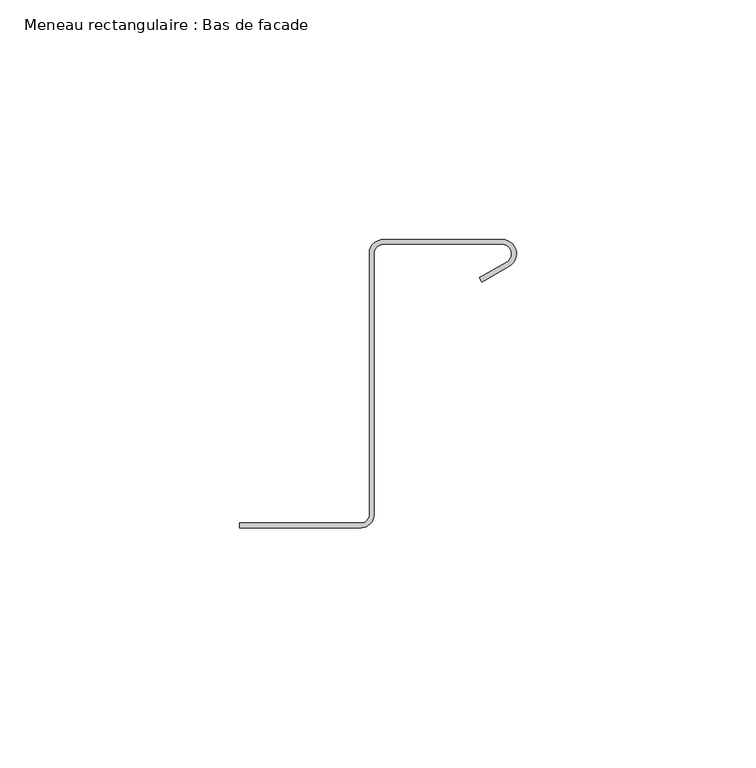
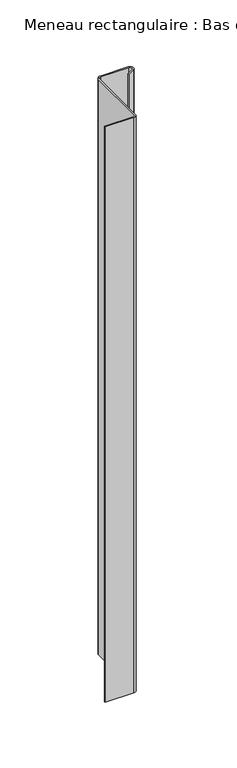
"""IFC4 building model written with IfcOpenShell, lengths in millimetres: member geometry, Meneau rectangulaire : Bas de facade."""

from ifc_helpers import new_model, si_unit, point, frame, frame_2d, origin, place, context, project, spatial, polyline, circle_curve, trimmed, segment, composite_curve, outline, extrude, source, transform, mapped, element, save


def meneau_rectangulaire_bas_de_facade_e63c7c5e(model_context):
    return source(origin(), model_context, "Body", "SweptSolid", [
        extrude(outline(composite_curve([segment(polyline([(-32.4584179, -2.9588923), (-57.8548383, -2.9588923), (-57.8548383, -1.9588923), (-32.4584179, -1.9588923)]), True, "CONTINUOUS"), segment(trimmed(circle_curve(frame_2d((-32.4584179, -0.2088923)), 1.75), [point((-32.4584179, -1.9588923))], [point((-30.7239521, -0.4415475))], True, "CARTESIAN"), True, "CONTINUOUS"), segment(polyline([(-30.7239521, -0.4415475), (-30.7239521, 54.522067)]), True, "CONTINUOUS"), segment(trimmed(circle_curve(frame_2d((-27.735368, 54.2605998)), 3.0), [point((-30.7239521, 54.522067))], [point((-27.735368, 57.2605998))], False, "CARTESIAN"), True, "CONTINUOUS"), segment(polyline([(-27.735368, 57.2605998), (-3.0, 57.2605998)]), True, "CONTINUOUS"), segment(trimmed(circle_curve(frame_2d((-3.0, 54.2605998)), 3.0), [point((-3.0, 57.2605998))], [point((-1.5, 51.6625235))], False, "CARTESIAN"), True, "CONTINUOUS"), segment(polyline([(-1.5, 51.6625235), (-7.1638061, 48.3925235), (-7.6638061, 49.258549), (-2.0, 52.528549)]), True, "CONTINUOUS"), segment(trimmed(circle_curve(frame_2d((-3.0, 54.2605998)), 2.0), [point((-2.0, 52.528549))], [point((-3.0, 56.2605998))], True, "CARTESIAN"), True, "CONTINUOUS"), segment(polyline([(-3.0, 56.2605998), (-27.735368, 56.2605998)]), True, "CONTINUOUS"), segment(trimmed(circle_curve(frame_2d((-27.735368, 54.2605998)), 2.0), [point((-27.735368, 56.2605998))], [point((-29.7143802, 54.5495817))], True, "CARTESIAN"), True, "CONTINUOUS"), segment(polyline([(-29.7143802, 54.5495817), (-29.7143802, -0.3898824)]), True, "CONTINUOUS"), segment(trimmed(circle_curve(frame_2d((-32.4584179, -0.2088923)), 2.75), [point((-29.7143802, -0.3898824))], [point((-32.4584179, -2.9588923))], False, "CARTESIAN"), True, "CONTINUOUS")], self_intersect=False)), frame((0.0, 0.0, -534.0), z_axis=(0.0, 0.0, 1.0), x_axis=(1.0, 0.0, 0.0)), (0.0, 0.0, 1.0), 534.0),
    ])


if __name__ == "__main__":
    model = new_model("IFC4")
    model_context = context("Model", 3, world=origin())
    ifc_project = project(units=[si_unit("LENGTHUNIT", "METRE", prefix="MILLI")], contexts=[model_context])
    site = spatial("IfcSite", under=ifc_project)
    building = spatial("IfcBuilding", under=site)
    placement = place(None, origin())
    meneau_rectangulaire_bas_de_facade_shape = meneau_rectangulaire_bas_de_facade_e63c7c5e(model_context)
    element("IfcMember", 1, ObjectType="Meneau rectangulaire : Bas de facade", at=placement, inside=building, context=model_context, shape_type="MappedRepresentation", body=[
        mapped(meneau_rectangulaire_bas_de_facade_shape, transform((0.0, 0.0, 0.0), x_axis=(1.0, 0.0, 0.0), y_axis=(0.0, 1.0, 0.0), z_axis=(0.0, 0.0, 1.0))),
    ])
    save(model, "model.ifc")
